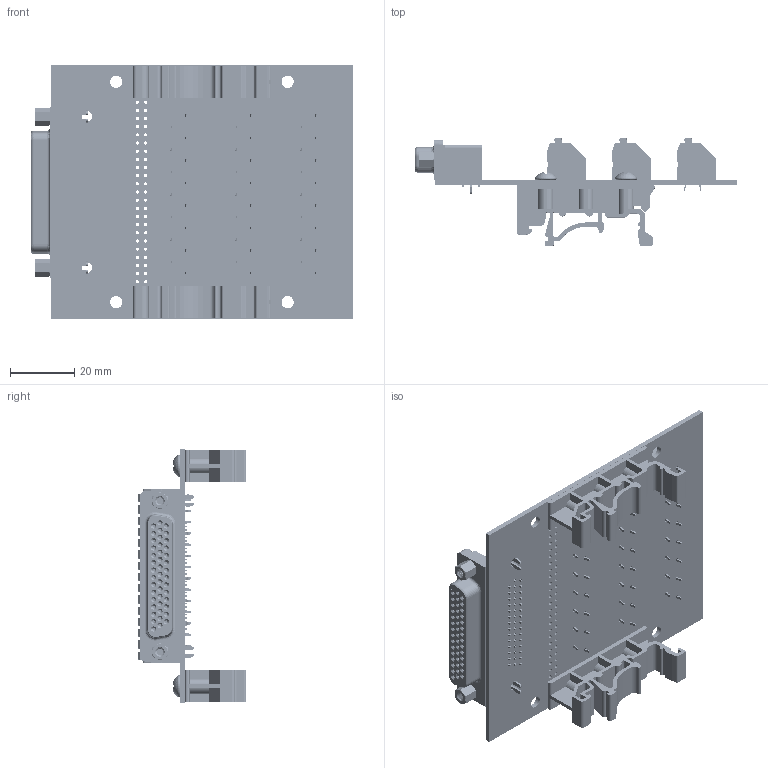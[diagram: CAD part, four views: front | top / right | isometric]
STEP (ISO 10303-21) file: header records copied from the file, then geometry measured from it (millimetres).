
FILE_DESCRIPTION (( 'STEP AP214' ), '1' );
FILE_NAME ('brkg44hdf-r-din_rev_a.step', '2021-08-20T20:30:15', ( '' ), ( '' ), 'SwSTEP 2.0', 'SolidWorks 2018', '' );
FILE_SCHEMA (( 'AUTOMOTIVE_DESIGN' ));
Length unit declared in the file: inch
Products named in the file (6): brkg44hdf-r-din_rev_a; 44 pin female dsub connector; Screw_SCSMPP-6-0.375_90184A127; dinm01; BRKG44HDF-R_Pcb; Spring Terminal 15 Position
Assembly tree (11 placements, depth 2):
  brkg44hdf-r-din_rev_a
    BRKG44HDF-R_Pcb
    44 pin female dsub connector
    Spring Terminal 15 Position  x3
    dinm01  x2
    Screw_SCSMPP-6-0.375_90184A127  x4
Bounding box: 100.13 x 33.66 x 78.74 mm (x, y, z)
Volume: 44240.1 mm3; surface area: 42003.5 mm2
Topology: 13 solids, 13 shells, 9077 faces, 24438 edges, 15904 vertices
Faces by surface type: plane 5145, cylinder 1983, bspline 1498, cone 432, torus 11, sphere 8
Entity records: 337326 total; most frequent: CARTESIAN_POINT 129489, ORIENTED_EDGE 31372, DIRECTION 22247, EDGE_CURVE 15686, VERTEX_POINT 10295, LINE 10043, VECTOR 10043, EDGE_LOOP 6565
